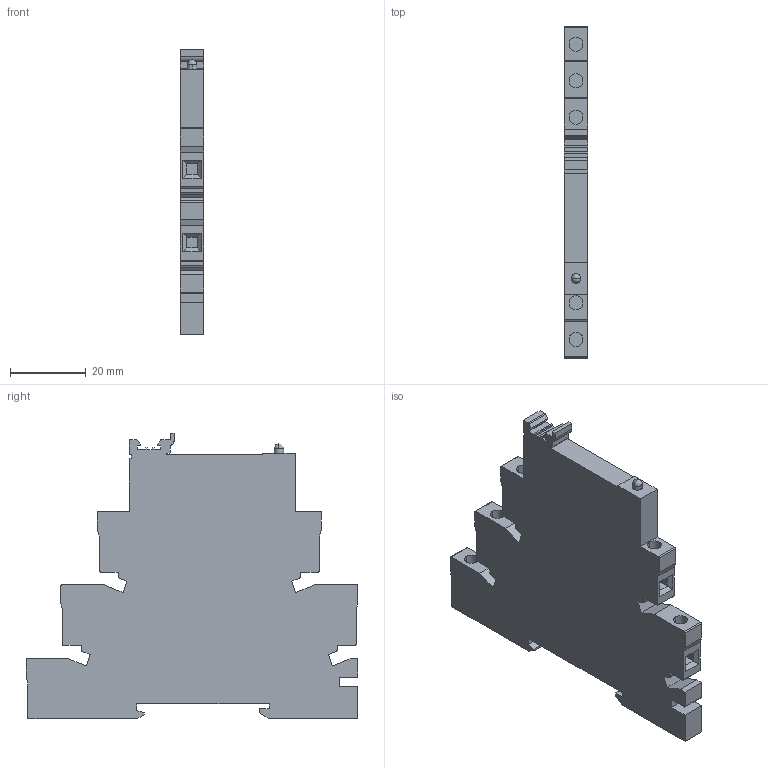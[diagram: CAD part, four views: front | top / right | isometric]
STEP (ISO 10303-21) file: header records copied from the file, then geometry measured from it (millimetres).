
FILE_DESCRIPTION (( 'STEP AP214' ), '1' );
FILE_NAME ('CRINT-C11x.STEP', '2024-04-04T12:49:36', ( '' ), ( '' ), 'SwSTEP 2.0', 'SolidWorks 2022', '' );
FILE_SCHEMA (( 'AUTOMOTIVE_DESIGN' ));
Length unit declared in the file: millimetre
Products named in the file (1): CRINT-C11x
Bounding box: 6.2 x 87.8 x 75.6 mm (x, y, z)
Volume: 27252.7 mm3; surface area: 12380.3 mm2
Topology: 1 solids, 1 shells, 175 faces, 468 edges, 304 vertices
Faces by surface type: plane 143, cylinder 30, sphere 2
Entity records: 5782 total; most frequent: CARTESIAN_POINT 946, ORIENTED_EDGE 932, DIRECTION 881, EDGE_CURVE 466, VECTOR 403, LINE 403, VERTEX_POINT 304, AXIS2_PLACEMENT_3D 239
